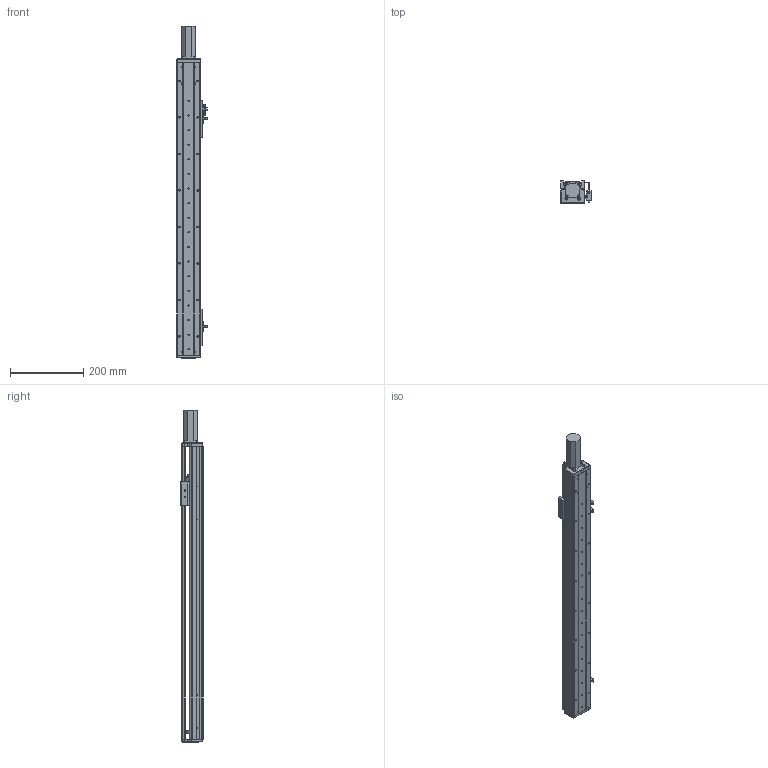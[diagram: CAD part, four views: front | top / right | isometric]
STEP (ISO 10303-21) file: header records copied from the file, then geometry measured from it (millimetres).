
FILE_DESCRIPTION (( 'STEP AP203' ), '1' );
FILE_NAME ('RY60-L1210-300-MK.SLDASM_600.step', '2021-02-20T01:56:01', ( '' ), ( '' ), 'SwSTEP 2.0', 'SolidWorks 2012', '' );
FILE_SCHEMA (( 'CONFIG_CONTROL_DESIGN' ));
Length unit declared in the file: millimetre
Products named in the file (13): RY60-L1210-300-MK.SLDASM_600; SFN1210螺母(没线割）; 滅袉蝶18-20; RY60綴裔啣; 滅袉蝶18-10; 侂狟100W; RY60前盖板100(PCD46-M4); 覜茼ん672; RY80俋离覜茼え; 672嫖萇羲壽假蚾釱; RY60臏賑輸; RY60-300倰第菁釱-MK_600; RY60-300倰第裔啣-MK_600
Assembly tree (17 placements, depth 2):
  RY60-L1210-300-MK.SLDASM_600
    RY60-300倰第菁釱-MK_600
    RY60臏賑輸
    RY60-300倰第裔啣-MK_600
    RY60前盖板100(PCD46-M4)
    672嫖萇羲壽假蚾釱  x2
    覜茼ん672  x3
    RY80俋离覜茼え
    侂狟100W
    滅袉蝶18-20  x2
    滅袉蝶18-10  x2
    RY60綴裔啣
    SFN1210螺母(没线割）
Bounding box: 83.7 x 61 x 909 mm (x, y, z)
Volume: 1026869.4 mm3; surface area: 502822.2 mm2
Topology: 18 solids, 18 shells, 1175 faces, 3326 edges, 2150 vertices
Faces by surface type: plane 557, cylinder 542, cone 67, bspline 9
Entity records: 38622 total; most frequent: CARTESIAN_POINT 9394, ORIENTED_EDGE 5908, DIRECTION 5677, EDGE_CURVE 2954, AXIS2_PLACEMENT_3D 1971, VERTEX_POINT 1934, VECTOR 1735, LINE 1735
